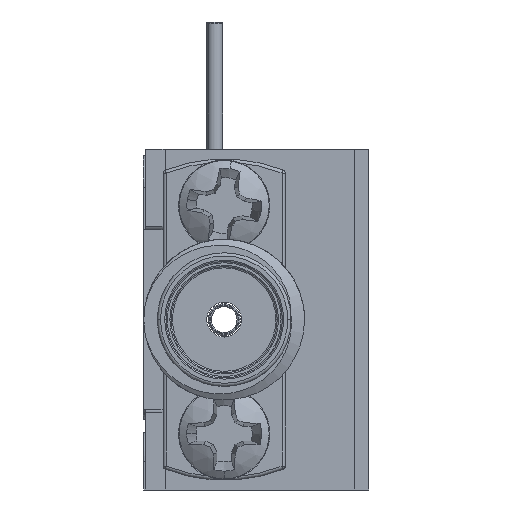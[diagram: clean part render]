
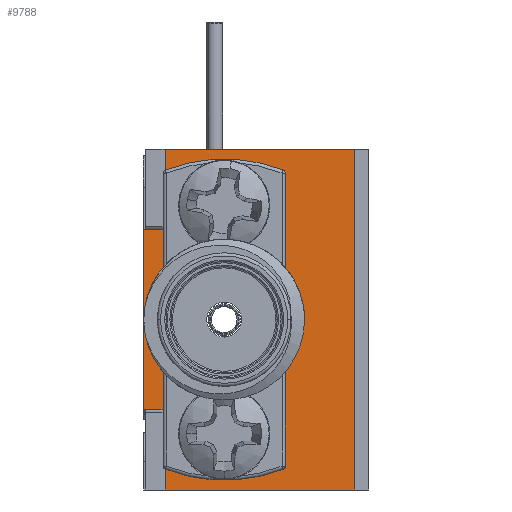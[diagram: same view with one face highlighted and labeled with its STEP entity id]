
A CAD part, left-side view. The second image highlights one B-rep face of the part: STEP entity #9788.
In plain terms, the highlighted planar face has unit normal (-1, 0, 0).
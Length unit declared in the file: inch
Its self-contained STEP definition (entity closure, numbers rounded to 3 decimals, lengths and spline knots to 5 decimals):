
#166 = PLANE ( 'NONE',  #26112 ) ;
#411 = CARTESIAN_POINT ( 'NONE',  ( -0.345, 0., -0.265 ) ) ;
#480 = AXIS2_PLACEMENT_3D ( 'NONE', #35198, #19117, #16557 ) ;
#800 = CARTESIAN_POINT ( 'NONE',  ( -0.345, -0.092, -0.1775 ) ) ;
#1155 = DIRECTION ( 'NONE',  ( -1., 0., 0. ) ) ;
#1161 = CARTESIAN_POINT ( 'NONE',  ( -0.345, -0.092, 0.0625 ) ) ;
#1254 = DIRECTION ( 'NONE',  ( 0., 0., -1. ) ) ;
#1527 = EDGE_CURVE ( 'NONE', #27599, #23721, #5106, .T. ) ;
#1562 = CARTESIAN_POINT ( 'NONE',  ( -0.345, -0.295, 0.265 ) ) ;
#2073 = EDGE_CURVE ( 'NONE', #19420, #27116, #9159, .T. ) ;
#2455 = ORIENTED_EDGE ( 'NONE', *, *, #16574, .F. ) ;
#2521 = LINE ( 'NONE', #31675, #29284 ) ;
#2795 = ORIENTED_EDGE ( 'NONE', *, *, #41086, .F. ) ;
#3380 = ORIENTED_EDGE ( 'NONE', *, *, #32777, .F. ) ;
#3384 = DIRECTION ( 'NONE',  ( -1., 0., 0. ) ) ;
#3407 = ORIENTED_EDGE ( 'NONE', *, *, #11532, .T. ) ;
#3764 = CARTESIAN_POINT ( 'NONE',  ( -0.345, 0., -0.265 ) ) ;
#4105 = CARTESIAN_POINT ( 'NONE',  ( -0.345, -0.295, -0.265 ) ) ;
#4106 = AXIS2_PLACEMENT_3D ( 'NONE', #9301, #34709, #14795 ) ;
#4287 = LINE ( 'NONE', #36424, #14280 ) ;
#5106 = LINE ( 'NONE', #14149, #17910 ) ;
#5704 = VERTEX_POINT ( 'NONE', #1161 ) ;
#6351 = FACE_BOUND ( 'NONE', #31733, .T. ) ;
#6483 = ORIENTED_EDGE ( 'NONE', *, *, #10362, .F. ) ;
#7439 = ORIENTED_EDGE ( 'NONE', *, *, #1527, .T. ) ;
#7925 = LINE ( 'NONE', #1562, #29199 ) ;
#8044 = VERTEX_POINT ( 'NONE', #27861 ) ;
#8455 = ORIENTED_EDGE ( 'NONE', *, *, #27149, .F. ) ;
#8580 = EDGE_CURVE ( 'NONE', #5704, #8044, #29490, .T. ) ;
#8845 = CARTESIAN_POINT ( 'NONE',  ( -0.345, 0.033, -0.14 ) ) ;
#9159 = CIRCLE ( 'NONE', #23318, 0.043 ) ;
#9301 = CARTESIAN_POINT ( 'NONE',  ( -0.345, -0.092, 0.1775 ) ) ;
#9512 = VERTEX_POINT ( 'NONE', #21431 ) ;
#9788 = ADVANCED_FACE ( 'NONE', ( #32334, #29140, #6351, #38075 ), #166, .T. ) ;
#10214 = DIRECTION ( 'NONE',  ( 0., 1., 0. ) ) ;
#10338 = CARTESIAN_POINT ( 'NONE',  ( -0.345, -0.092, 0.1775 ) ) ;
#10362 = EDGE_CURVE ( 'NONE', #22068, #37133, #25249, .T. ) ;
#11292 = CIRCLE ( 'NONE', #480, 0.0625 ) ;
#11532 = EDGE_CURVE ( 'NONE', #15334, #35534, #4287, .T. ) ;
#12006 = CARTESIAN_POINT ( 'NONE',  ( -0.345, 0., 0.14 ) ) ;
#12088 = EDGE_LOOP ( 'NONE', ( #36660, #3380 ) ) ;
#12124 = CARTESIAN_POINT ( 'NONE',  ( -0.345, -0.092, -0.2205 ) ) ;
#12592 = VECTOR ( 'NONE', #38176, 39.37008 ) ;
#13061 = CARTESIAN_POINT ( 'NONE',  ( -0.345, -0.295, 0.265 ) ) ;
#14149 = CARTESIAN_POINT ( 'NONE',  ( -0.345, 0.033, -0.14 ) ) ;
#14280 = VECTOR ( 'NONE', #20929, 39.37008 ) ;
#14766 = CIRCLE ( 'NONE', #38431, 0.043 ) ;
#14795 = DIRECTION ( 'NONE',  ( 0., 0., 1. ) ) ;
#14855 = CIRCLE ( 'NONE', #31766, 0.043 ) ;
#15334 = VERTEX_POINT ( 'NONE', #36020 ) ;
#15631 = CARTESIAN_POINT ( 'NONE',  ( -0.345, -0.295, -0.265 ) ) ;
#16168 = DIRECTION ( 'NONE',  ( 0., -1., 0. ) ) ;
#16557 = DIRECTION ( 'NONE',  ( 0., 0., 1. ) ) ;
#16574 = EDGE_CURVE ( 'NONE', #27599, #23702, #2521, .T. ) ;
#17845 = EDGE_CURVE ( 'NONE', #23721, #37133, #18726, .T. ) ;
#17910 = VECTOR ( 'NONE', #1254, 39.37008 ) ;
#18342 = DIRECTION ( 'NONE',  ( 0., -1., 0. ) ) ;
#18726 = LINE ( 'NONE', #38199, #38845 ) ;
#19117 = DIRECTION ( 'NONE',  ( -1., 0., 0. ) ) ;
#19420 = VERTEX_POINT ( 'NONE', #27310 ) ;
#19933 = LINE ( 'NONE', #4105, #21417 ) ;
#20462 = DIRECTION ( 'NONE',  ( -1., 0., 0. ) ) ;
#20929 = DIRECTION ( 'NONE',  ( 0., 0., 1. ) ) ;
#21393 = CARTESIAN_POINT ( 'NONE',  ( -0.345, -0.092, 0.2205 ) ) ;
#21417 = VECTOR ( 'NONE', #10214, 39.37008 ) ;
#21431 = CARTESIAN_POINT ( 'NONE',  ( -0.345, 0., 0.265 ) ) ;
#21988 = DIRECTION ( 'NONE',  ( 0., 0., 1. ) ) ;
#22068 = VERTEX_POINT ( 'NONE', #3764 ) ;
#22362 = CARTESIAN_POINT ( 'NONE',  ( -0.345, 0.033, 0.14 ) ) ;
#23004 = DIRECTION ( 'NONE',  ( 0., 0., 1. ) ) ;
#23318 = AXIS2_PLACEMENT_3D ( 'NONE', #23358, #1155, #26945 ) ;
#23358 = CARTESIAN_POINT ( 'NONE',  ( -0.345, -0.092, -0.1775 ) ) ;
#23475 = EDGE_LOOP ( 'NONE', ( #6483, #23883, #3407, #31050, #25118, #2455, #7439, #27534 ) ) ;
#23702 = VERTEX_POINT ( 'NONE', #12006 ) ;
#23721 = VERTEX_POINT ( 'NONE', #8845 ) ;
#23737 = DIRECTION ( 'NONE',  ( 0., 1., 0. ) ) ;
#23883 = ORIENTED_EDGE ( 'NONE', *, *, #26340, .F. ) ;
#24072 = AXIS2_PLACEMENT_3D ( 'NONE', #25375, #38305, #21988 ) ;
#24430 = EDGE_CURVE ( 'NONE', #23702, #9512, #29580, .T. ) ;
#25118 = ORIENTED_EDGE ( 'NONE', *, *, #24430, .F. ) ;
#25158 = VERTEX_POINT ( 'NONE', #21393 ) ;
#25249 = LINE ( 'NONE', #37977, #12592 ) ;
#25375 = CARTESIAN_POINT ( 'NONE',  ( -0.345, -0.092, 0. ) ) ;
#26112 = AXIS2_PLACEMENT_3D ( 'NONE', #15631, #3384, #32116 ) ;
#26340 = EDGE_CURVE ( 'NONE', #15334, #22068, #19933, .T. ) ;
#26808 = DIRECTION ( 'NONE',  ( 0., 0., 1. ) ) ;
#26945 = DIRECTION ( 'NONE',  ( 0., 0., 1. ) ) ;
#27116 = VERTEX_POINT ( 'NONE', #12124 ) ;
#27149 = EDGE_CURVE ( 'NONE', #8044, #5704, #11292, .T. ) ;
#27310 = CARTESIAN_POINT ( 'NONE',  ( -0.345, -0.092, -0.1345 ) ) ;
#27534 = ORIENTED_EDGE ( 'NONE', *, *, #17845, .T. ) ;
#27599 = VERTEX_POINT ( 'NONE', #22362 ) ;
#27861 = CARTESIAN_POINT ( 'NONE',  ( -0.345, -0.092, -0.0625 ) ) ;
#29140 = FACE_BOUND ( 'NONE', #35341, .T. ) ;
#29199 = VECTOR ( 'NONE', #23737, 39.37008 ) ;
#29284 = VECTOR ( 'NONE', #18342, 39.37008 ) ;
#29490 = CIRCLE ( 'NONE', #24072, 0.0625 ) ;
#29580 = LINE ( 'NONE', #411, #30730 ) ;
#30005 = DIRECTION ( 'NONE',  ( 0., 0., 1. ) ) ;
#30161 = EDGE_CURVE ( 'NONE', #30574, #25158, #14766, .T. ) ;
#30574 = VERTEX_POINT ( 'NONE', #35769 ) ;
#30730 = VECTOR ( 'NONE', #30005, 39.37008 ) ;
#31050 = ORIENTED_EDGE ( 'NONE', *, *, #34714, .T. ) ;
#31675 = CARTESIAN_POINT ( 'NONE',  ( -0.345, 0.65511, 0.14 ) ) ;
#31733 = EDGE_LOOP ( 'NONE', ( #37465, #8455 ) ) ;
#31766 = AXIS2_PLACEMENT_3D ( 'NONE', #800, #20462, #26808 ) ;
#32116 = DIRECTION ( 'NONE',  ( 0., 0., 1. ) ) ;
#32334 = FACE_BOUND ( 'NONE', #12088, .T. ) ;
#32777 = EDGE_CURVE ( 'NONE', #27116, #19420, #14855, .T. ) ;
#34709 = DIRECTION ( 'NONE',  ( -1., 0., 0. ) ) ;
#34714 = EDGE_CURVE ( 'NONE', #35534, #9512, #7925, .T. ) ;
#35156 = CIRCLE ( 'NONE', #4106, 0.043 ) ;
#35198 = CARTESIAN_POINT ( 'NONE',  ( -0.345, -0.092, 0. ) ) ;
#35341 = EDGE_LOOP ( 'NONE', ( #2795, #36709 ) ) ;
#35534 = VERTEX_POINT ( 'NONE', #13061 ) ;
#35769 = CARTESIAN_POINT ( 'NONE',  ( -0.345, -0.092, 0.1345 ) ) ;
#36020 = CARTESIAN_POINT ( 'NONE',  ( -0.345, -0.295, -0.265 ) ) ;
#36424 = CARTESIAN_POINT ( 'NONE',  ( -0.345, -0.295, -0.265 ) ) ;
#36660 = ORIENTED_EDGE ( 'NONE', *, *, #2073, .F. ) ;
#36709 = ORIENTED_EDGE ( 'NONE', *, *, #30161, .F. ) ;
#37133 = VERTEX_POINT ( 'NONE', #38799 ) ;
#37465 = ORIENTED_EDGE ( 'NONE', *, *, #8580, .F. ) ;
#37977 = CARTESIAN_POINT ( 'NONE',  ( -0.345, 0., -0.265 ) ) ;
#38075 = FACE_OUTER_BOUND ( 'NONE', #23475, .T. ) ;
#38176 = DIRECTION ( 'NONE',  ( 0., 0., 1. ) ) ;
#38199 = CARTESIAN_POINT ( 'NONE',  ( -0.345, 0.65511, -0.14 ) ) ;
#38305 = DIRECTION ( 'NONE',  ( -1., 0., 0. ) ) ;
#38431 = AXIS2_PLACEMENT_3D ( 'NONE', #10338, #39104, #23004 ) ;
#38799 = CARTESIAN_POINT ( 'NONE',  ( -0.345, 0., -0.14 ) ) ;
#38845 = VECTOR ( 'NONE', #16168, 39.37008 ) ;
#39104 = DIRECTION ( 'NONE',  ( -1., 0., 0. ) ) ;
#41086 = EDGE_CURVE ( 'NONE', #25158, #30574, #35156, .T. ) ;
